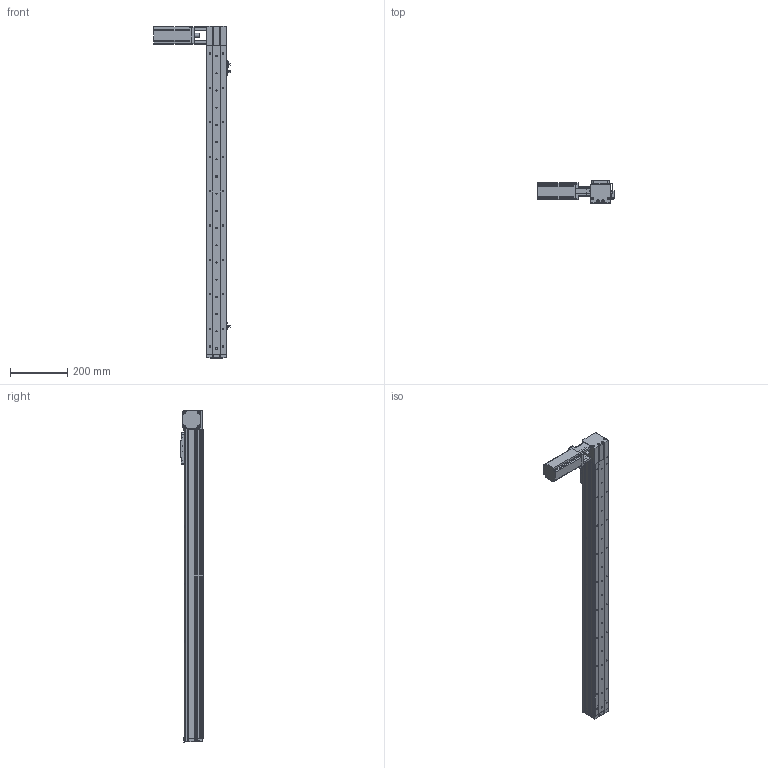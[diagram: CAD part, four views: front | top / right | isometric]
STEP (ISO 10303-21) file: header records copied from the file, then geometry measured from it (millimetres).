
FILE_DESCRIPTION (( 'STEP AP214' ), '1' );
FILE_NAME ('KSD68BS-S900-MLT-CR.STEP', '2019-08-28T03:34:51', ( '微软用户' ), ( '微软中国' ), 'SwSTEP 2.0', 'SolidWorks 2014', '' );
FILE_SCHEMA (( 'AUTOMOTIVE_DESIGN' ));
Length unit declared in the file: millimetre
Products named in the file (13): KSD68BS-S900-MLT-CR; 100遵鎮湛假蚾啣1; KSD68BS 900行程盖板全封闭; 68遵裔啣揤啣1; 68宽单导轨全封闭丝杆传动安装板1防护罩; KSD68BS 900行程侧板全封闭; 68宽单导轨全封闭同步带端板; 68单导轨全封闭同步带电机座右; 68单导轨全封闭同步带安装板; 感应片68宽全封闭; U倰嫖萇EEㄜSX672; 台达ECMA－C20604AS伺服电机（400W); KSD68BS 900行程底板全封闭
Assembly tree (16 placements, depth 2):
  KSD68BS-S900-MLT-CR
    KSD68BS 900行程底板全封闭
    台达ECMA－C20604AS伺服电机（400W)
    U倰嫖萇EEㄜSX672  x3
    感应片68宽全封闭
    68单导轨全封闭同步带安装板
    68单导轨全封闭同步带电机座右
    68宽单导轨全封闭同步带端板
    KSD68BS 900行程侧板全封闭  x2
    68宽单导轨全封闭丝杆传动安装板1防护罩
    68遵裔啣揤啣1  x2
    KSD68BS 900行程盖板全封闭
    100遵鎮湛假蚾啣1
Bounding box: 266.4 x 77 x 1158.1 mm (x, y, z)
Volume: 2351336.8 mm3; surface area: 870071.5 mm2
Topology: 17 solids, 17 shells, 1428 faces, 4072 edges, 2601 vertices
Faces by surface type: cylinder 668, plane 600, cone 160
Entity records: 45377 total; most frequent: CARTESIAN_POINT 7719, DIRECTION 6750, ORIENTED_EDGE 6464, EDGE_CURVE 3232, AXIS2_PLACEMENT_3D 2434, VERTEX_POINT 2119, LINE 1882, VECTOR 1882
